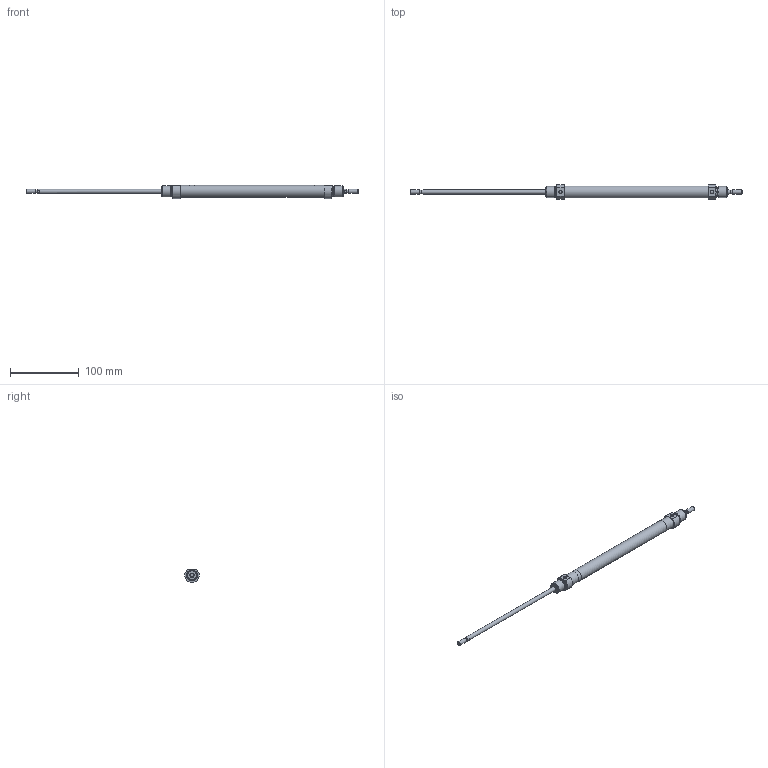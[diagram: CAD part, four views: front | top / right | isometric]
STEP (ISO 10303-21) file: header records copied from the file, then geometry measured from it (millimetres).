
FILE_DESCRIPTION( ( 'STEP AP203' ), '1' );
FILE_NAME( '//expscmdclustefs.cadenas.external/client_exchange/iodir/jobs/output/wkb68413408_no0/STEP/M101-016-0175-M__0__2_03.stp', ' ', ( ' ' ), ( ' ' ), 'PSStep 15.0.47', 'PARTsolutions', ' ' );
FILE_SCHEMA( ( 'CONFIG_CONTROL_DESIGN' ) );
Length unit declared in the file: millimetre
Products named in the file (3): M101-016-0175-M [0]; HI_M101-016-0175-M-[0]-z; HI_M101-016-0175-M-[0]-k
Assembly tree (2 placements, depth 2):
  M101-016-0175-M [0]
    HI_M101-016-0175-M-[0]-z
    HI_M101-016-0175-M-[0]-k
Bounding box: 482 x 20.94 x 19.09 mm (x, y, z)
Volume: 38601.6 mm3; surface area: 36101.3 mm2
Topology: 2 solids, 2 shells, 67 faces, 135 edges, 82 vertices
Faces by surface type: plane 28, cylinder 23, cone 14, torus 2
Full cylindrical faces by diameter (mm): 4.134 x2, 4.773 x2, 6 x6, 14.16 x4, 16 x6, 17.3 x1
Entity records: 1730 total; most frequent: CARTESIAN_POINT 334, DIRECTION 292, ORIENTED_EDGE 196, AXIS2_PLACEMENT_3D 132, EDGE_LOOP 116, EDGE_CURVE 98, FACE_OUTER_BOUND 90, VERTEX_POINT 78
